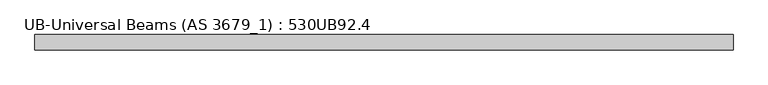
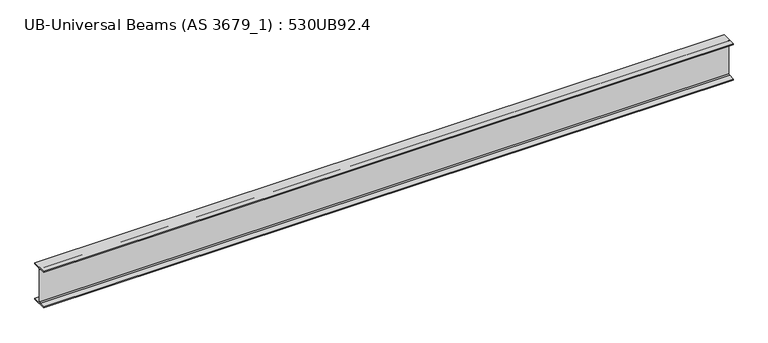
"""IFC4 building model written with IfcOpenShell, lengths in millimetres: beam geometry, UB-Universal Beams (AS 3679_1) : 530UB92.4."""

from ifc_helpers import new_model, si_unit, point, frame, frame_2d, origin, place, context, project, spatial, polyline, circle_curve, trimmed, segment, composite_curve, outline, extrude, source, transform, mapped, element, save


def ub_universal_beams_as_3679_1_530ub92_4_e80fb2e1(model_context):
    return source(origin(), model_context, "Body", "SweptSolid", [
        extrude(outline(composite_curve([segment(polyline([(104.5, -250.9), (104.5, -266.5), (-104.5, -266.5), (-104.5, -250.9), (-19.1, -250.9)]), True, "CONTINUOUS"), segment(trimmed(circle_curve(frame_2d((-19.1, -236.9)), 14.0), [point((-19.1, -250.9))], [point((-5.1, -236.9))], True, "CARTESIAN"), True, "CONTINUOUS"), segment(polyline([(-5.1, -236.9), (-5.1, 236.9)]), True, "CONTINUOUS"), segment(trimmed(circle_curve(frame_2d((-19.1, 236.9)), 14.0), [point((-5.1, 236.9))], [point((-19.1, 250.9))], True, "CARTESIAN"), True, "CONTINUOUS"), segment(polyline([(-19.1, 250.9), (-104.5, 250.9), (-104.5, 266.5), (104.5, 266.5), (104.5, 250.9), (19.1, 250.9)]), True, "CONTINUOUS"), segment(trimmed(circle_curve(frame_2d((19.1, 236.9)), 14.0), [point((19.1, 250.9))], [point((5.1, 236.9))], True, "CARTESIAN"), True, "CONTINUOUS"), segment(polyline([(5.1, 236.9), (5.1, -236.9)]), True, "CONTINUOUS"), segment(trimmed(circle_curve(frame_2d((19.1, -236.9)), 14.0), [point((5.1, -236.9))], [point((19.1, -250.9))], True, "CARTESIAN"), True, "CONTINUOUS"), segment(polyline([(19.1, -250.9), (104.5, -250.9)]), True, "CONTINUOUS")], self_intersect=False)), frame((-4763.3, 0.0, 0.0), z_axis=(1.0, 0.0, 0.0), x_axis=(0.0, 1.0, 0.0)), (0.0, 0.0, 1.0), 9526.6),
    ])


if __name__ == "__main__":
    model = new_model("IFC4")
    model_context = context("Model", 3, world=origin())
    ifc_project = project(units=[si_unit("LENGTHUNIT", "METRE", prefix="MILLI")], contexts=[model_context])
    site = spatial("IfcSite", under=ifc_project)
    building = spatial("IfcBuilding", under=site)
    placement = place(None, origin())
    ub_universal_beams_as_3679_1_530ub92_4_shape = ub_universal_beams_as_3679_1_530ub92_4_e80fb2e1(model_context)
    element("IfcBeam", 1, ObjectType="UB-Universal Beams (AS 3679_1) : 530UB92.4", at=placement, inside=building, context=model_context, shape_type="MappedRepresentation", body=[
        mapped(ub_universal_beams_as_3679_1_530ub92_4_shape, transform((0.0, 0.0, 0.0), x_axis=(1.0, 0.0, 0.0), y_axis=(0.0, 1.0, 0.0), z_axis=(0.0, 0.0, 1.0))),
    ])
    save(model, "model.ifc")
